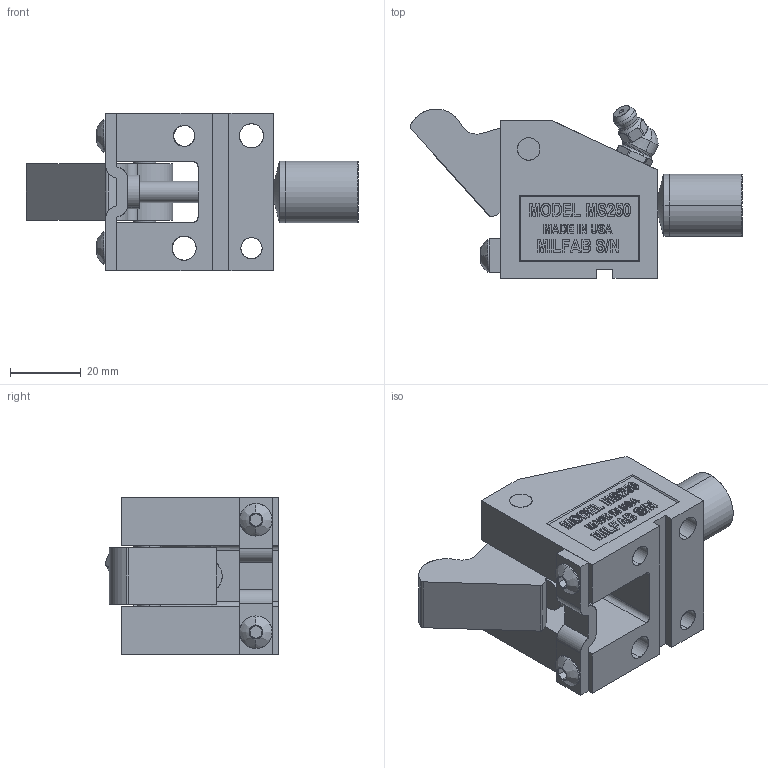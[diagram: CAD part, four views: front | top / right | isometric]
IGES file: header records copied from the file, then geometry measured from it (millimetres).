
Start section: SolidWorks IGES file using analytic representation for surfaces
Global section: file name: Y:\3\MS25045\OPEN\MS25045-O.IGS; native system: SolidWorks 2006 by SolidWorks Corporation; preprocessor: SolidWorks 2006 by SolidWorks Corporation; author: Jim; date: 090126.144116; units: inch
Bounding box: 93.85 x 48.83 x 44.45 mm (x, y, z)
Surface area: 27561.2 mm2 (no closed solid volume)
Topology: 0 solids, 0 shells, 591 faces, 7364 edges, 7362 vertices
Faces by surface type: bspline 467, revolution 124
